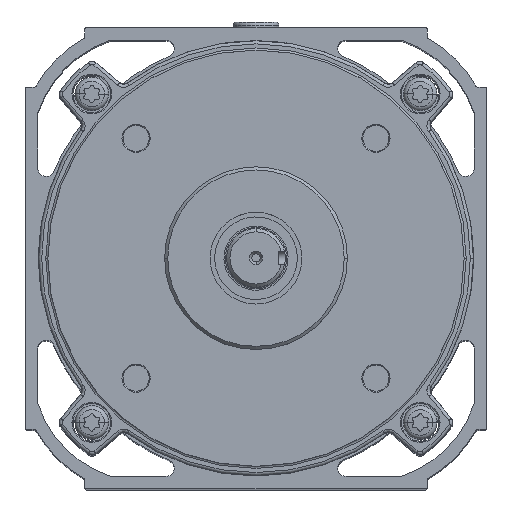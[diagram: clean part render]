
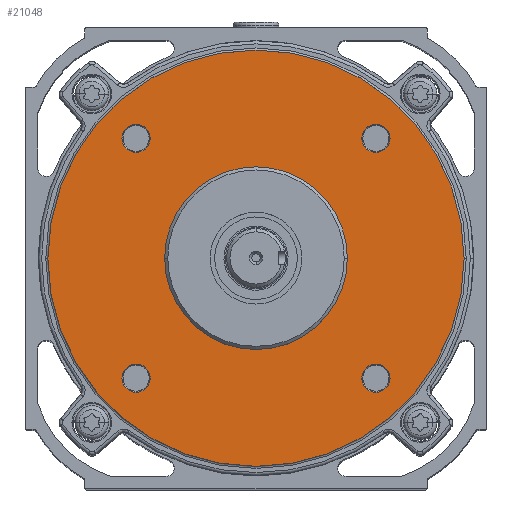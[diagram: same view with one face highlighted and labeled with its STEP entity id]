
A CAD part, top view. The second image highlights one B-rep face of the part: STEP entity #21048.
In plain terms, the highlighted planar face has unit normal (0, 0, 1).
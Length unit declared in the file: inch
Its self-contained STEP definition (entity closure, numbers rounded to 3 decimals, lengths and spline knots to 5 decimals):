
#3988 = VERTEX_POINT ( 'NONE', #25121 ) ;
#3991 = VERTEX_POINT ( 'NONE', #25120 ) ;
#4040 = EDGE_CURVE ( 'NONE', #3988, #3991, #25112, .T. ) ;
#4203 = VERTEX_POINT ( 'NONE', #25152 ) ;
#4216 = VERTEX_POINT ( 'NONE', #25151 ) ;
#4242 = EDGE_CURVE ( 'NONE', #4216, #4203, #25145, .T. ) ;
#9529 = CARTESIAN_POINT ( 'NONE',  ( 1.28405, 1.14905, 0.33506 ) ) ;
#12909 = CIRCLE ( 'NONE', #12966, 1.99391 ) ;
#12927 = CARTESIAN_POINT ( 'NONE',  ( -1.01405, -1.14905, 0.33506 ) ) ;
#12928 = DIRECTION ( 'NONE',  ( 1., 0., 0. ) ) ;
#12929 = DIRECTION ( 'NONE',  ( 0., 0., 1. ) ) ;
#12930 = CARTESIAN_POINT ( 'NONE',  ( -1.14905, -1.14905, 0.33506 ) ) ;
#12931 = AXIS2_PLACEMENT_3D ( 'NONE', #12930, #12929, #12928 ) ;
#12932 = CIRCLE ( 'NONE', #12931, 0.135 ) ;
#12936 = CARTESIAN_POINT ( 'NONE',  ( -1.28405, -1.14905, 0.33506 ) ) ;
#12956 = CARTESIAN_POINT ( 'NONE',  ( 1.99391, 0., 0.33506 ) ) ;
#12957 = CARTESIAN_POINT ( 'NONE',  ( -1.99391, 0., 0.33506 ) ) ;
#12963 = DIRECTION ( 'NONE',  ( -1., 0., 0. ) ) ;
#12964 = DIRECTION ( 'NONE',  ( 0., 0., 1. ) ) ;
#12965 = CARTESIAN_POINT ( 'NONE',  ( 0., 0., 0.33506 ) ) ;
#12966 = AXIS2_PLACEMENT_3D ( 'NONE', #12965, #12964, #12963 ) ;
#13033 = CARTESIAN_POINT ( 'NONE',  ( 1.28405, -1.14905, 0.33506 ) ) ;
#13034 = DIRECTION ( 'NONE',  ( 1., 0., 0. ) ) ;
#13035 = DIRECTION ( 'NONE',  ( 0., 0., 1. ) ) ;
#13036 = CARTESIAN_POINT ( 'NONE',  ( 1.14905, -1.14905, 0.33506 ) ) ;
#13037 = AXIS2_PLACEMENT_3D ( 'NONE', #13036, #13035, #13034 ) ;
#13038 = CIRCLE ( 'NONE', #13037, 0.135 ) ;
#13043 = CARTESIAN_POINT ( 'NONE',  ( 1.01405, -1.14905, 0.33506 ) ) ;
#13048 = CARTESIAN_POINT ( 'NONE',  ( 1.01405, 1.14905, 0.33506 ) ) ;
#13453 = CIRCLE ( 'NONE', #13488, 0.135 ) ;
#13485 = DIRECTION ( 'NONE',  ( 1., 0., 0. ) ) ;
#13486 = DIRECTION ( 'NONE',  ( 0., 0., 1. ) ) ;
#13487 = CARTESIAN_POINT ( 'NONE',  ( 1.14905, 1.14905, 0.33506 ) ) ;
#13488 = AXIS2_PLACEMENT_3D ( 'NONE', #13487, #13486, #13485 ) ;
#14081 = CARTESIAN_POINT ( 'NONE',  ( 1.14905, 1.14905, 0.33506 ) ) ;
#14082 = AXIS2_PLACEMENT_3D ( 'NONE', #14081, #14145, #14144 ) ;
#14083 = CIRCLE ( 'NONE', #14082, 0.135 ) ;
#14095 = DIRECTION ( 'NONE',  ( 1., 0., 0. ) ) ;
#14096 = DIRECTION ( 'NONE',  ( 0., 0., 1. ) ) ;
#14097 = CARTESIAN_POINT ( 'NONE',  ( 1.14905, -1.14905, 0.33506 ) ) ;
#14098 = AXIS2_PLACEMENT_3D ( 'NONE', #14097, #14096, #14095 ) ;
#14103 = CIRCLE ( 'NONE', #14098, 0.135 ) ;
#14115 = CIRCLE ( 'NONE', #14180, 0.875 ) ;
#14127 = DIRECTION ( 'NONE',  ( 1., 0., 0. ) ) ;
#14128 = DIRECTION ( 'NONE',  ( 0., 0., 1. ) ) ;
#14129 = CARTESIAN_POINT ( 'NONE',  ( -1.14905, 1.14905, 0.33506 ) ) ;
#14130 = AXIS2_PLACEMENT_3D ( 'NONE', #14129, #14128, #14127 ) ;
#14135 = CIRCLE ( 'NONE', #14130, 0.135 ) ;
#14144 = DIRECTION ( 'NONE',  ( 1., 0., 0. ) ) ;
#14145 = DIRECTION ( 'NONE',  ( 0., 0., 1. ) ) ;
#14149 = DIRECTION ( 'NONE',  ( -1., 0., 0. ) ) ;
#14150 = DIRECTION ( 'NONE',  ( 0., 0., -1. ) ) ;
#14151 = AXIS2_PLACEMENT_3D ( 'NONE', #14153, #14150, #14149 ) ;
#14153 = CARTESIAN_POINT ( 'NONE',  ( 0., 0., 0.33506 ) ) ;
#14154 = PLANE ( 'NONE',  #14151 ) ;
#14155 = FACE_BOUND ( 'NONE', #21038, .T. ) ;
#14156 = FACE_OUTER_BOUND ( 'NONE', #21111, .T. ) ;
#14157 = FACE_BOUND ( 'NONE', #21108, .T. ) ;
#14158 = FACE_BOUND ( 'NONE', #21055, .T. ) ;
#14159 = FACE_BOUND ( 'NONE', #21052, .T. ) ;
#14160 = FACE_BOUND ( 'NONE', #21049, .T. ) ;
#14161 = DIRECTION ( 'NONE',  ( 1., 0., 0. ) ) ;
#14162 = DIRECTION ( 'NONE',  ( 0., 0., 1. ) ) ;
#14163 = CARTESIAN_POINT ( 'NONE',  ( -1.14905, -1.14905, 0.33506 ) ) ;
#14164 = AXIS2_PLACEMENT_3D ( 'NONE', #14163, #14162, #14161 ) ;
#14169 = CIRCLE ( 'NONE', #14164, 0.135 ) ;
#14172 = DIRECTION ( 'NONE',  ( -1., 0., 0. ) ) ;
#14173 = DIRECTION ( 'NONE',  ( 0., 0., 1. ) ) ;
#14174 = CARTESIAN_POINT ( 'NONE',  ( 0., 0., 0.33506 ) ) ;
#14175 = AXIS2_PLACEMENT_3D ( 'NONE', #14174, #14173, #14172 ) ;
#14176 = CIRCLE ( 'NONE', #14175, 1.99391 ) ;
#14177 = DIRECTION ( 'NONE',  ( -1., 0., 0. ) ) ;
#14178 = DIRECTION ( 'NONE',  ( 0., 0., 1. ) ) ;
#14179 = CARTESIAN_POINT ( 'NONE',  ( 0., 0., 0.33506 ) ) ;
#14180 = AXIS2_PLACEMENT_3D ( 'NONE', #14179, #14178, #14177 ) ;
#18940 = VERTEX_POINT ( 'NONE', #9529 ) ;
#20573 = VERTEX_POINT ( 'NONE', #12936 ) ;
#20575 = EDGE_CURVE ( 'NONE', #20573, #20576, #12932, .T. ) ;
#20576 = VERTEX_POINT ( 'NONE', #12927 ) ;
#20586 = EDGE_CURVE ( 'NONE', #20588, #20589, #12909, .T. ) ;
#20588 = VERTEX_POINT ( 'NONE', #12957 ) ;
#20589 = VERTEX_POINT ( 'NONE', #12956 ) ;
#20633 = VERTEX_POINT ( 'NONE', #13048 ) ;
#20638 = VERTEX_POINT ( 'NONE', #13043 ) ;
#20641 = EDGE_CURVE ( 'NONE', #20638, #20643, #13038, .T. ) ;
#20643 = VERTEX_POINT ( 'NONE', #13033 ) ;
#20799 = EDGE_CURVE ( 'NONE', #20633, #18940, #13453, .T. ) ;
#21005 = EDGE_CURVE ( 'NONE', #20643, #20638, #14103, .T. ) ;
#21015 = EDGE_CURVE ( 'NONE', #18940, #20633, #14083, .T. ) ;
#21025 = EDGE_CURVE ( 'NONE', #3991, #3988, #14135, .T. ) ;
#21032 = EDGE_CURVE ( 'NONE', #4203, #4216, #14115, .T. ) ;
#21035 = ORIENTED_EDGE ( 'NONE', *, *, #21036, .T. ) ;
#21036 = EDGE_CURVE ( 'NONE', #20589, #20588, #14176, .T. ) ;
#21037 = ORIENTED_EDGE ( 'NONE', *, *, #20586, .T. ) ;
#21038 = EDGE_LOOP ( 'NONE', ( #21039, #21040 ) ) ;
#21039 = ORIENTED_EDGE ( 'NONE', *, *, #4242, .F. ) ;
#21040 = ORIENTED_EDGE ( 'NONE', *, *, #21032, .F. ) ;
#21047 = EDGE_CURVE ( 'NONE', #20576, #20573, #14169, .T. ) ;
#21048 = ADVANCED_FACE ( 'NONE', ( #14160, #14159, #14158, #14157, #14156, #14155 ), #14154, .F. ) ;
#21049 = EDGE_LOOP ( 'NONE', ( #21050, #21051 ) ) ;
#21050 = ORIENTED_EDGE ( 'NONE', *, *, #21047, .F. ) ;
#21051 = ORIENTED_EDGE ( 'NONE', *, *, #20575, .F. ) ;
#21052 = EDGE_LOOP ( 'NONE', ( #21053, #21054 ) ) ;
#21053 = ORIENTED_EDGE ( 'NONE', *, *, #21005, .F. ) ;
#21054 = ORIENTED_EDGE ( 'NONE', *, *, #20641, .F. ) ;
#21055 = EDGE_LOOP ( 'NONE', ( #21056, #21057 ) ) ;
#21056 = ORIENTED_EDGE ( 'NONE', *, *, #21015, .F. ) ;
#21057 = ORIENTED_EDGE ( 'NONE', *, *, #20799, .F. ) ;
#21108 = EDGE_LOOP ( 'NONE', ( #21109, #21110 ) ) ;
#21109 = ORIENTED_EDGE ( 'NONE', *, *, #21025, .F. ) ;
#21110 = ORIENTED_EDGE ( 'NONE', *, *, #4040, .F. ) ;
#21111 = EDGE_LOOP ( 'NONE', ( #21035, #21037 ) ) ;
#25108 = DIRECTION ( 'NONE',  ( 1., 0., 0. ) ) ;
#25109 = DIRECTION ( 'NONE',  ( 0., 0., 1. ) ) ;
#25110 = CARTESIAN_POINT ( 'NONE',  ( -1.14905, 1.14905, 0.33506 ) ) ;
#25111 = AXIS2_PLACEMENT_3D ( 'NONE', #25110, #25109, #25108 ) ;
#25112 = CIRCLE ( 'NONE', #25111, 0.135 ) ;
#25120 = CARTESIAN_POINT ( 'NONE',  ( -1.01405, 1.14905, 0.33506 ) ) ;
#25121 = CARTESIAN_POINT ( 'NONE',  ( -1.28405, 1.14905, 0.33506 ) ) ;
#25141 = DIRECTION ( 'NONE',  ( -1., 0., 0. ) ) ;
#25142 = DIRECTION ( 'NONE',  ( 0., 0., 1. ) ) ;
#25143 = CARTESIAN_POINT ( 'NONE',  ( 0., 0., 0.33506 ) ) ;
#25144 = AXIS2_PLACEMENT_3D ( 'NONE', #25143, #25142, #25141 ) ;
#25145 = CIRCLE ( 'NONE', #25144, 0.875 ) ;
#25151 = CARTESIAN_POINT ( 'NONE',  ( 0.875, 0., 0.33506 ) ) ;
#25152 = CARTESIAN_POINT ( 'NONE',  ( -0.875, 0., 0.33506 ) ) ;
